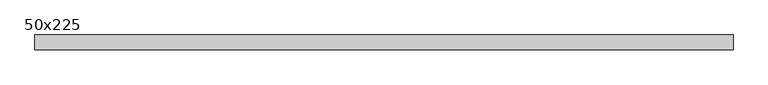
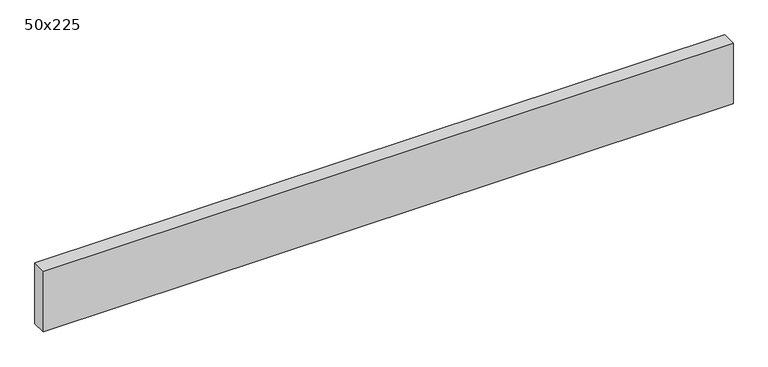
"""IFC4 building model written with IfcOpenShell, lengths in millimetres: beam geometry, Graded Timber : 50x225."""

from ifc_helpers import new_model, si_unit, frame, origin, place, context, project, spatial, polyline, outline, extrude, source, transform, mapped, element, save


def beam_50x225_7f7f86ef(model_context):
    return source(origin(), model_context, "Body", "SweptSolid", [
        extrude(outline(polyline([(1182.0, 25.0), (1182.0, -25.0), (-1182.0, -25.0), (-1182.0, 25.0), (1182.0, 25.0)])), frame((0.0, 0.0, -110.0), z_axis=(0.0, 0.0, 1.0), x_axis=(1.0, 0.0, 0.0)), (0.0, 0.0, 1.0), 220.0),
    ])


if __name__ == "__main__":
    model = new_model("IFC4")
    model_context = context("Model", 3, world=origin())
    ifc_project = project(units=[si_unit("LENGTHUNIT", "METRE", prefix="MILLI")], contexts=[model_context])
    site = spatial("IfcSite", under=ifc_project)
    building = spatial("IfcBuilding", under=site)
    placement = place(None, origin())
    beam_50x225_shape = beam_50x225_7f7f86ef(model_context)
    element("IfcBeam", 1, ObjectType="Graded Timber : 50x225", at=placement, inside=building, context=model_context, shape_type="MappedRepresentation", body=[
        mapped(beam_50x225_shape, transform((0.0, 0.0, 0.0), x_axis=(1.0, 0.0, 0.0), y_axis=(0.0, 1.0, 0.0), z_axis=(0.0, 0.0, 1.0))),
    ])
    save(model, "model.ifc")
